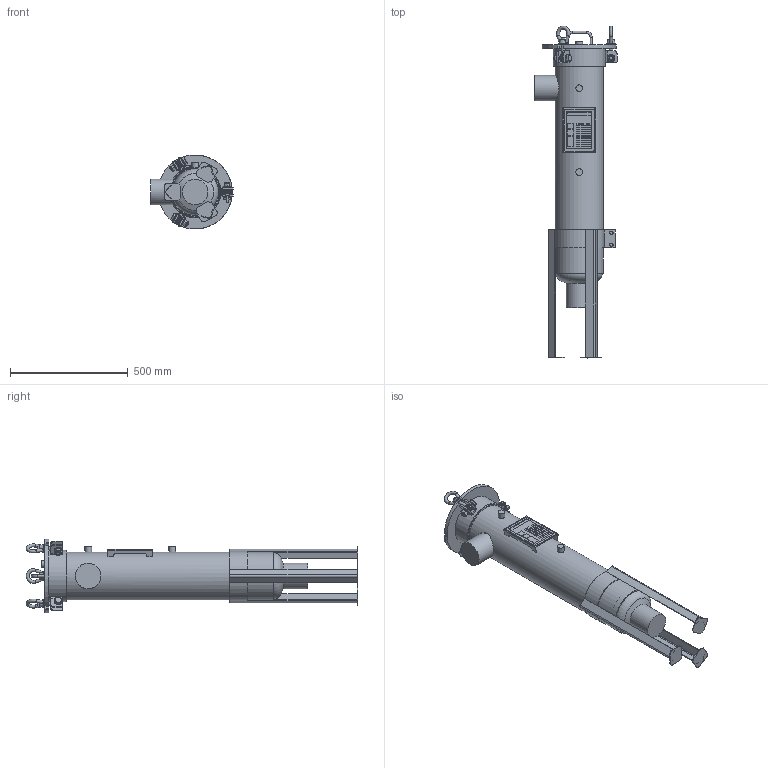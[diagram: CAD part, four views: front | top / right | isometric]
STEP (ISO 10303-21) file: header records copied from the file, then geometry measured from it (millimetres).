
FILE_DESCRIPTION (( 'STEP AP203' ), '1' );
FILE_NAME ('002001-00358.STEP', '2025-12-11T20:38:03', ( '' ), ( '' ), 'SwSTEP 2.0', 'SolidWorks 2023', '' );
FILE_SCHEMA (( 'CONFIG_CONTROL_DESIGN' ));
Length unit declared in the file: inch
Products named in the file (1): 002001-00358
Bounding box: 347.66 x 1406.5 x 313.55 mm (x, y, z)
Volume: 10524505.4 mm3; surface area: 1988636.5 mm2
Topology: 11 solids, 11 shells, 609 faces, 1479 edges, 938 vertices
Faces by surface type: plane 295, cylinder 135, cone 111, bspline 45, torus 22, sphere 1
Full cylindrical faces by diameter (mm): 9.525 x6, 12.7 x6, 14.288 x2, 15.875 x25, 23.812 x3, 26.987 x3, 28.575 x3, 33.325 x6, 44.45 x3, 107.95 x3, 195.262 x1, 219.075 x1
Entity records: 20468 total; most frequent: CARTESIAN_POINT 7196, ORIENTED_EDGE 2660, DIRECTION 2642, EDGE_CURVE 1330, AXIS2_PLACEMENT_3D 1039, VERTEX_POINT 891, EDGE_LOOP 777, FACE_OUTER_BOUND 691
